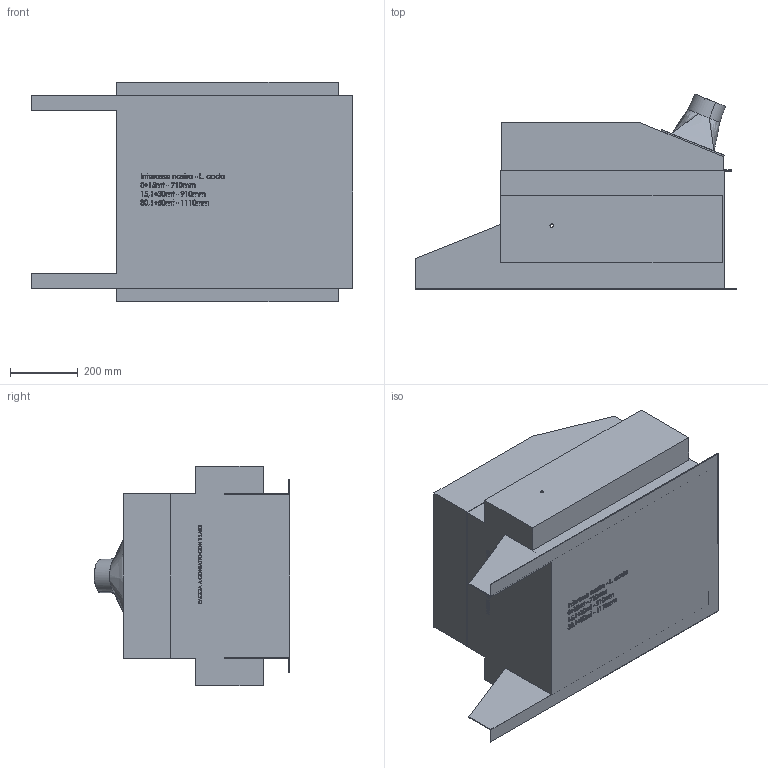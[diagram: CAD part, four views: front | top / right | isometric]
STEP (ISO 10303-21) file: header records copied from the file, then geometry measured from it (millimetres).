
FILE_DESCRIPTION (( 'STEP AP203' ), '1' );
FILE_NAME ('30762.step', '2019-03-14T14:32:30', ( 'PC' ), ( 'Hewlett-Packard Company' ), 'SwSTEP 2.0', 'SolidWorks 2016', '' );
FILE_SCHEMA (( 'CONFIG_CONTROL_DESIGN' ));
Products named in the file (1): 30762
Bounding box: 950 x 579.37 x 650 mm (x, y, z)
Volume: 174432866.9 mm3; surface area: 3296514.6 mm2
Topology: 3 solids, 3 shells, 1165 faces, 3095 edges, 2057 vertices
Faces by surface type: plane 700, bspline 443, cylinder 20, cone 2
Entity records: 64426 total; most frequent: CARTESIAN_POINT 38359, ORIENTED_EDGE 6186, DIRECTION 3689, EDGE_CURVE 3093, VECTOR 2163, LINE 2163, VERTEX_POINT 2057, EDGE_LOOP 1304
